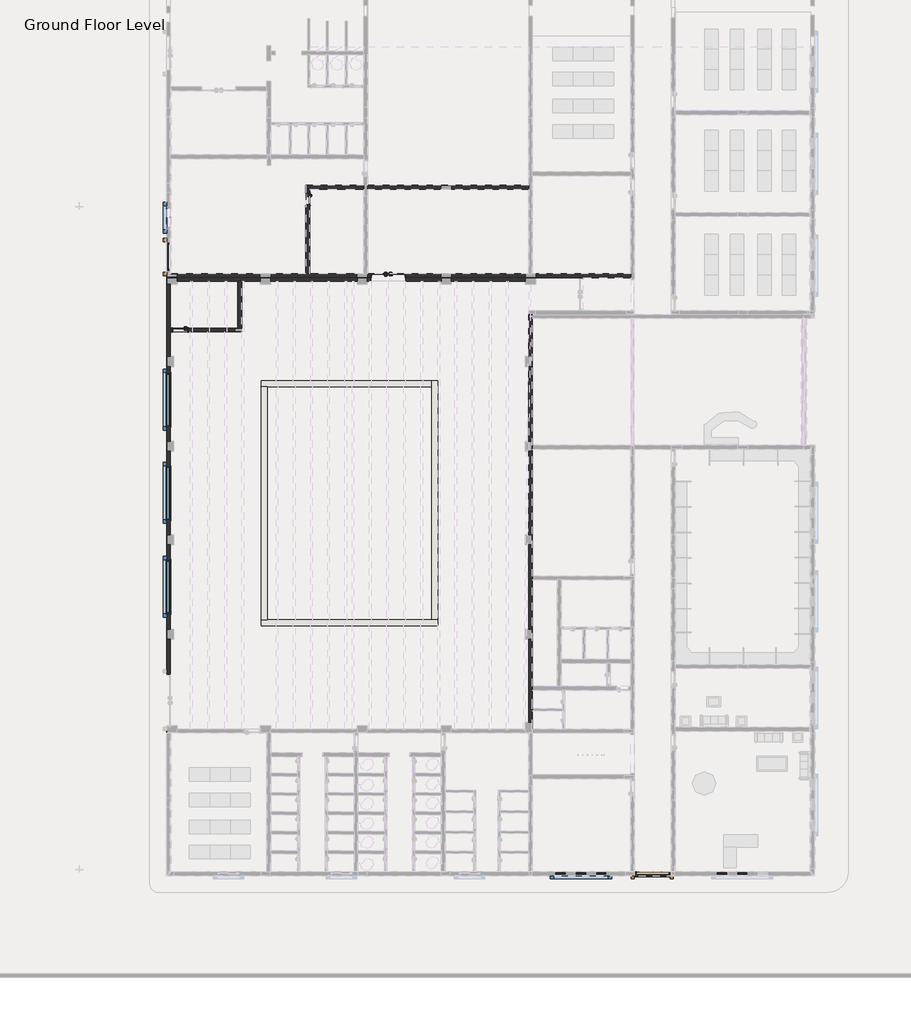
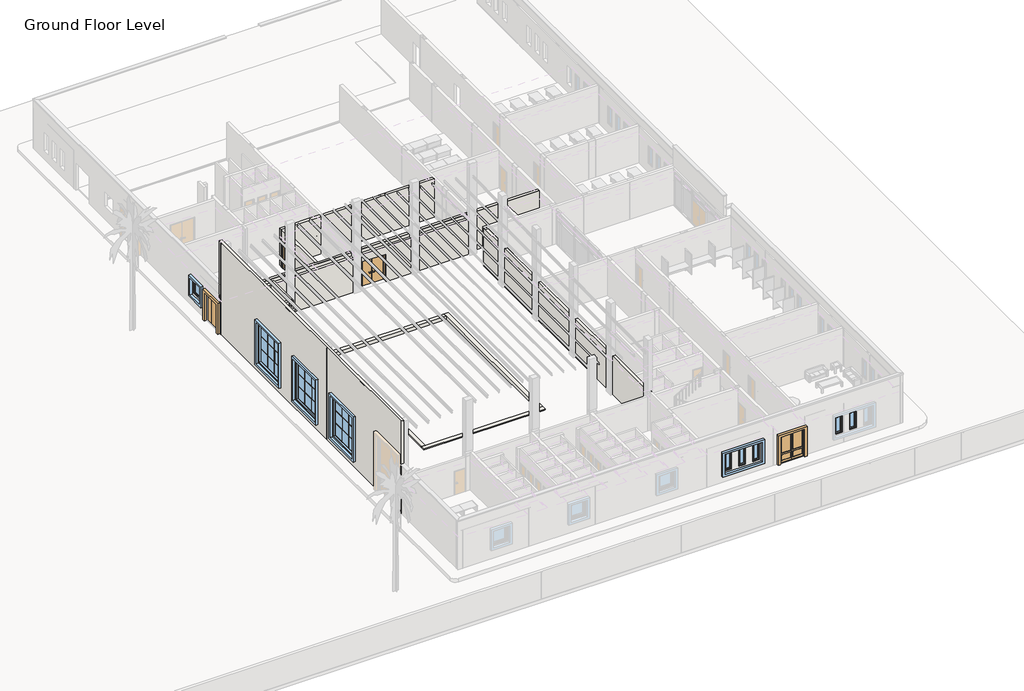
# One storey, part 3 of 23: 14 walls, 14 windows, 7 doors.
"""IFC4 building model written with IfcOpenShell, lengths in millimetres."""

from ifc_helpers import new_model, si_unit, frame, origin, place, context, project, spatial, polyline, outline, extrude, faceted_brep, transform, mapped, element, save
from components import door_1600_x_2500_8ab3e31f, door_batten_type_1_74683e9b, door_batten_type_1_96aa3be5, ext_double_out_timber_2lite_nz_2000x_2500_b5d1efe6, int_double_flush_nz_2000_x_2500_d3729d4c, int_single_flush_nz_700x_2100_3f4e598a, int_single_flush_nz_900_x_2100_2a598139, m_casement_3x3_with_trim_w4_ecc57509, window_batten_type_1_bbb21959, window_batten_type_1_b6324fda, window_batten_type_1_102509b6, window_single_shutter_w3_b236610e, window_single_shutter_w5_77842b58

model = new_model("IFC4")

# Units and contexts
model_context = context("Model", 3, world=origin())
ifc_project = project(units=[si_unit("LENGTHUNIT", "METRE", prefix="MILLI")], contexts=[model_context])

# Site, building, storey
site = spatial("IfcSite", under=ifc_project)
building = spatial("IfcBuilding", under=site)
storey = spatial("IfcBuildingStorey", under=building, Name="Ground Floor Level", Elevation=900.0)

# Doors
placement = place(None, origin())
door_1600_x_2500_shape = door_1600_x_2500_8ab3e31f(model_context)
element("IfcDoor", 1, ObjectType="Flush Asymmetrical : 1600 x 2500", at=placement, inside=storey, context=model_context, shape_type="MappedRepresentation", body=[
    mapped(door_1600_x_2500_shape, transform((-21947.2327605, -4944.7846466, 1000.0), x_axis=(0.0, 1.0, 0.0), y_axis=(-1.0, 0.0, 0.0), z_axis=(0.0, 0.0, 1.0))),
])
door_batten_type_1_shape = door_batten_type_1_74683e9b(model_context)
element("IfcDoor", 2, ObjectType="Door Batten : Type 1", at=placement, inside=storey, context=model_context, shape_type="MappedRepresentation", body=[
    mapped(door_batten_type_1_shape, transform((-21947.2327605, -4828.4134813, 987.2608957), x_axis=(0.0, -1.0, 0.0), y_axis=(1.0, 0.0, 0.0), z_axis=(0.0, 0.0, 1.0))),
])
door_batten_type_1_2_shape = door_batten_type_1_96aa3be5(model_context)
element("IfcDoor", 3, ObjectType="Door Batten : Type 1", at=placement, inside=storey, context=model_context, shape_type="MappedRepresentation", body=[
    mapped(door_batten_type_1_2_shape, transform((6395.8448912, -41254.7846466, 900.0), x_axis=(1.0, 0.0, 0.0), y_axis=(0.0, 1.0, 0.0), z_axis=(0.0, 0.0, 1.0))),
])
ext_double_out_timber_2lite_nz_2000x_2500_shape = ext_double_out_timber_2lite_nz_2000x_2500_b5d1efe6(model_context)
element("IfcDoor", 4, ObjectType="Ext Double Out-Timber-2Lite (NZ) : 2000x 2500", at=placement, inside=storey, context=model_context, shape_type="MappedRepresentation", body=[
    mapped(ext_double_out_timber_2lite_nz_2000x_2500_shape, transform((6410.7672394, -41257.5141639, 900.0), x_axis=(-1.0, 0.0, 0.0), y_axis=(0.0, -1.0, 0.0), z_axis=(0.0, 0.0, 1.0))),
])
int_double_flush_nz_2000_x_2500_shape = int_double_flush_nz_2000_x_2500_d3729d4c(model_context)
element("IfcDoor", 5, ObjectType="Int Double-Flush (NZ) : 2000 x 2500", at=placement, inside=storey, context=model_context, shape_type="MappedRepresentation", body=[
    mapped(int_double_flush_nz_2000_x_2500_shape, transform((-9018.2327605, -6054.7846466, 900.0), x_axis=(1.0, 0.0, 0.0), y_axis=(0.0, 1.0, 0.0), z_axis=(0.0, 0.0, 1.0))),
])
int_single_flush_nz_700x_2100_shape = int_single_flush_nz_700x_2100_3f4e598a(model_context)
element("IfcDoor", 6, ObjectType="Int Single-Flush (NZ) : 700x 2100", at=placement, inside=storey, context=model_context, shape_type="MappedRepresentation", body=[
    mapped(int_single_flush_nz_700x_2100_shape, transform((-13747.2327605, -1618.7846466, 1000.0), x_axis=(0.0, -1.0, 0.0), y_axis=(1.0, 0.0, 0.0), z_axis=(0.0, 0.0, 1.0))),
])
int_single_flush_nz_900_x_2100_shape = int_single_flush_nz_900_x_2100_2a598139(model_context)
element("IfcDoor", 7, ObjectType="Int Single-Flush (NZ) : 900 x 2100", at=placement, inside=storey, context=model_context, shape_type="MappedRepresentation", body=[
    mapped(int_single_flush_nz_900_x_2100_shape, transform((-21343.2327605, -9254.7846466, 1000.0), x_axis=(-1.0, 0.0, 0.0), y_axis=(0.0, -1.0, 0.0), z_axis=(0.0, 0.0, 1.0))),
])

# Walls
element("IfcWall", 8, ObjectType="Exterior - Blockwork 200 Swimming Pool", at=placement, inside=storey, context=model_context, shape_type="Brep", body=[
    faceted_brep([(-21837.2327605, -6164.7846466, 4100.0), (-947.2327605, -6164.7846466, 4100.0), (-947.2327605, -6164.7846466, 900.0), (-7999.2327605, -6164.7846466, 900.0), (-7999.2327605, -6164.7846466, 3419.0), (-10037.2327605, -6164.7846466, 3419.0), (-10037.2327605, -6164.7846466, 900.0), (-21837.2327605, -6164.7846466, 900.0), (-16547.2327605, -6384.7846466, 4100.0), (-21447.2327605, -6384.7846466, 4100.0), (-21447.2327605, -6384.7846466, 910.0), (-16547.2327605, -6384.7846466, 910.0), (-10847.2327605, -6384.7846466, 4100.0), (-15947.2327605, -6384.7846466, 4100.0), (-15947.2327605, -6384.7846466, 910.0), (-10847.2327605, -6384.7846466, 910.0), (-947.2327605, -6384.7846466, 4100.0), (-5297.2327605, -6384.7846466, 4100.0), (-5297.2327605, -6384.7846466, 910.0), (-947.2327605, -6384.7846466, 910.0), (-5897.2327605, -6384.7846466, 4100.0), (-10247.2327605, -6384.7846466, 4100.0), (-10247.2327605, -6384.7846466, 910.0), (-10037.2327605, -6384.7846466, 910.0), (-10037.2327605, -6384.7846466, 3419.0), (-7999.2327605, -6384.7846466, 3419.0), (-7999.2327605, -6384.7846466, 910.0), (-5897.2327605, -6384.7846466, 910.0), (-21837.2327605, -6174.7846466, 900.0), (-10037.2327605, -6374.7846466, 900.0), (-10247.2327605, -6374.7846466, 900.0), (-10247.2327605, -6174.7846466, 900.0), (-10847.2327605, -6174.7846466, 900.0), (-10847.2327605, -6374.7846466, 900.0), (-15947.2327605, -6374.7846466, 900.0), (-15947.2327605, -6174.7846466, 900.0), (-16547.2327605, -6174.7846466, 900.0), (-16547.2327605, -6374.7846466, 900.0), (-21447.2327605, -6374.7846466, 900.0), (-21447.2327605, -6174.7846466, 900.0), (-5297.2327605, -6174.7846466, 900.0), (-5897.2327605, -6174.7846466, 900.0), (-5897.2327605, -6374.7846466, 900.0), (-7999.2327605, -6374.7846466, 900.0), (-947.2327605, -6374.7846466, 900.0), (-5297.2327605, -6374.7846466, 900.0), (-21837.2327605, -6174.7846466, 4100.0), (-21447.2327605, -6174.7846466, 4100.0), (-16547.2327605, -6174.7846466, 4100.0), (-15947.2327605, -6174.7846466, 4100.0), (-10847.2327605, -6174.7846466, 4100.0), (-10247.2327605, -6174.7846466, 4100.0), (-5897.2327605, -6174.7846466, 4100.0), (-5297.2327605, -6174.7846466, 4100.0), (-947.2327605, -6374.7846466, 910.0), (-21447.2327605, -6374.7846466, 910.0), (-15947.2327605, -6374.7846466, 910.0), (-16547.2327605, -6374.7846466, 910.0), (-10247.2327605, -6374.7846466, 910.0), (-10847.2327605, -6374.7846466, 910.0), (-5297.2327605, -6374.7846466, 910.0), (-5897.2327605, -6374.7846466, 910.0), (-7999.2327605, -6374.7846466, 910.0), (-10037.2327605, -6374.7846466, 910.0)], [[[0, 1, 2, 3, 4, 5, 6, 7]], [[8, 9, 10, 11]], [[12, 13, 14, 15]], [[16, 17, 18, 19]], [[20, 21, 22, 23, 24, 25, 26, 27]], [[28, 7, 6, 29, 30, 31, 32, 33, 34, 35, 36, 37, 38, 39]], [[40, 41, 42, 43, 3, 2, 44, 45]], [[1, 0, 46, 47, 9, 8, 48, 49, 13, 12, 50, 51, 21, 20, 52, 53, 17, 16]], [[2, 1, 16, 19, 54, 44]], [[0, 7, 28, 46]], [[28, 39, 47, 46]], [[9, 47, 39, 38, 55, 10]], [[36, 35, 49, 48]], [[13, 49, 35, 34, 56, 14]], [[48, 8, 11, 57, 37, 36]], [[32, 31, 51, 50]], [[21, 51, 31, 30, 58, 22]], [[50, 12, 15, 59, 33, 32]], [[41, 40, 53, 52]], [[17, 53, 40, 45, 60, 18]], [[52, 20, 27, 61, 42, 41]], [[55, 57, 11, 10]], [[56, 59, 15, 14]], [[60, 54, 19, 18]], [[62, 61, 27, 26]], [[58, 63, 23, 22]], [[57, 55, 38, 37]], [[59, 56, 34, 33]], [[54, 60, 45, 44]], [[61, 62, 43, 42]], [[63, 58, 30, 29]], [[25, 4, 3, 43, 62, 26]], [[4, 25, 24, 5]], [[5, 24, 23, 63, 29, 6]]]),
])
element("IfcWall", 9, ObjectType="Exterior - Blockwork 200 Swimming Pool", at=placement, inside=storey, context=model_context, shape_type="Brep", body=[
    faceted_brep([(-757.2327605, -32354.7846466, 4400.0), (-757.2327605, -27454.7846466, 4400.0), (-757.2327605, -27454.7846466, 910.0), (-757.2327605, -32354.7846466, 910.0), (-757.2327605, -26854.7846466, 4400.0), (-757.2327605, -21904.7846466, 4400.0), (-757.2327605, -21904.7846466, 910.0), (-757.2327605, -26854.7846466, 910.0), (-757.2327605, -21304.7846466, 4400.0), (-757.2327605, -16404.7846466, 4400.0), (-757.2327605, -16404.7846466, 910.0), (-757.2327605, -21304.7846466, 910.0), (-757.2327605, -15804.7846466, 4400.0), (-757.2327605, -11404.7846466, 4400.0), (-757.2327605, -11404.7846466, 910.0), (-757.2327605, -15804.7846466, 910.0), (-757.2327605, -10804.7846466, 4400.0), (-757.2327605, -8344.7846466, 4400.0), (-757.2327605, -8344.7846466, 910.0), (-757.2327605, -10804.7846466, 910.0), (-537.2327605, -8344.7846466, 900.0), (-537.2327605, -8344.7846466, 4400.0), (-537.2327605, -8354.7846466, 4400.0), (-537.2327605, -8354.7846466, 900.0), (-537.2327605, -23754.7846466, 1000.0), (-537.2327605, -23744.7846466, 1000.0), (-537.2327605, -16264.7846466, 1000.0), (-537.2327605, -16254.7846466, 1000.0), (-537.2327605, -16254.7846466, 900.0), (-537.2327605, -16054.7846466, 900.0), (-537.2327605, -16054.7846466, 1000.0), (-537.2327605, -16044.7846466, 1000.0), (-537.2327605, -8564.7846466, 1000.0), (-537.2327605, -8554.7846466, 1000.0), (-537.2327605, -8554.7846466, 4400.0), (-537.2327605, -8564.7846466, 4400.0), (-537.2327605, -16044.7846466, 4400.0), (-537.2327605, -16264.7846466, 4400.0), (-537.2327605, -23744.7846466, 4400.0), (-537.2327605, -23964.7846466, 4400.0), (-537.2327605, -30234.7846466, 4400.0), (-537.2327605, -30454.7846466, 4400.0), (-537.2327605, -31544.7846466, 4400.0), (-537.2327605, -31664.7846466, 4400.0), (-537.2327605, -32754.7846466, 4400.0), (-537.2327605, -32854.7846466, 4400.0), (-537.2327605, -32854.7846466, 4100.0), (-537.2327605, -32744.7846466, 4100.0), (-537.2327605, -32744.7846466, 1000.0), (-537.2327605, -30454.7846466, 1000.0), (-537.2327605, -30444.7846466, 1000.0), (-537.2327605, -30444.7846466, 900.0), (-537.2327605, -30234.7846466, 900.0), (-537.2327605, -23964.7846466, 900.0), (-537.2327605, -23754.7846466, 900.0), (-547.2327605, -27454.7846466, 900.0), (-547.2327605, -26854.7846466, 900.0), (-747.2327605, -26854.7846466, 900.0), (-747.2327605, -21904.7846466, 900.0), (-547.2327605, -21904.7846466, 900.0), (-547.2327605, -23754.7846466, 900.0), (-547.2327605, -30444.7846466, 900.0), (-547.2327605, -32354.7846466, 900.0), (-747.2327605, -32354.7846466, 900.0), (-747.2327605, -27454.7846466, 900.0), (-747.2327605, -8354.7846466, 900.0), (-747.2327605, -8344.7846466, 900.0), (-547.2327605, -16404.7846466, 900.0), (-547.2327605, -21304.7846466, 900.0), (-747.2327605, -21304.7846466, 900.0), (-747.2327605, -16404.7846466, 900.0), (-547.2327605, -16254.7846466, 900.0), (-547.2327605, -16054.7846466, 900.0), (-747.2327605, -8554.7846466, 900.0), (-547.2327605, -8554.7846466, 900.0), (-547.2327605, -10804.7846466, 900.0), (-747.2327605, -10804.7846466, 900.0), (-547.2327605, -11404.7846466, 900.0), (-547.2327605, -15804.7846466, 900.0), (-747.2327605, -15804.7846466, 900.0), (-747.2327605, -11404.7846466, 900.0), (-547.2327605, -32354.7846466, 1000.0), (-547.2327605, -32744.7846466, 1000.0), (-547.2327605, -32744.7846466, 4100.0), (-547.2327605, -32854.7846466, 4100.0), (-547.2327605, -32854.7846466, 4400.0), (-547.2327605, -32754.7846466, 4400.0), (-547.2327605, -32354.7846466, 4400.0), (-747.2327605, -32354.7846466, 910.0), (-547.2327605, -27454.7846466, 4400.0), (-547.2327605, -26854.7846466, 4400.0), (-747.2327605, -27454.7846466, 910.0), (-747.2327605, -26854.7846466, 910.0), (-547.2327605, -21304.7846466, 1000.0), (-547.2327605, -21904.7846466, 1000.0), (-547.2327605, -21904.7846466, 4400.0), (-547.2327605, -21304.7846466, 4400.0), (-747.2327605, -21904.7846466, 910.0), (-747.2327605, -21304.7846466, 910.0), (-547.2327605, -16254.7846466, 1000.0), (-547.2327605, -16404.7846466, 1000.0), (-547.2327605, -16404.7846466, 4400.0), (-547.2327605, -15804.7846466, 4400.0), (-547.2327605, -15804.7846466, 1000.0), (-547.2327605, -16054.7846466, 1000.0), (-747.2327605, -16404.7846466, 910.0), (-747.2327605, -15804.7846466, 910.0), (-547.2327605, -10804.7846466, 1000.0), (-547.2327605, -11404.7846466, 1000.0), (-547.2327605, -11404.7846466, 4400.0), (-547.2327605, -10804.7846466, 4400.0), (-747.2327605, -11404.7846466, 910.0), (-747.2327605, -10804.7846466, 910.0), (-747.2327605, -8554.7846466, 910.0), (-747.2327605, -8554.7846466, 4400.0), (-547.2327605, -8554.7846466, 4400.0), (-547.2327605, -8554.7846466, 1000.0), (-747.2327605, -8354.7846466, 4400.0), (-747.2327605, -8354.7846466, 910.0), (-747.2327605, -8344.7846466, 910.0), (-547.2327605, -8344.7846466, 4400.0), (-547.2327605, -8354.7846466, 4400.0), (-547.2327605, -23754.7846466, 1000.0), (-547.2327605, -30444.7846466, 1000.0)], [[[0, 1, 2, 3]], [[4, 5, 6, 7]], [[8, 9, 10, 11]], [[12, 13, 14, 15]], [[16, 17, 18, 19]], [[20, 21, 22, 23]], [[24, 25, 26, 27, 28, 29, 30, 31, 32, 33, 34, 35, 36, 37, 38, 39, 40, 41, 42, 43, 44, 45, 46, 47, 48, 49, 50, 51, 52, 53, 54]], [[55, 56, 57, 58, 59, 60, 54, 53, 52, 51, 61, 62, 63, 64]], [[20, 23, 65, 66]], [[67, 68, 69, 70]], [[28, 71, 72, 29]], [[73, 74, 75, 76]], [[77, 78, 79, 80]], [[81, 82, 83, 84, 85, 86, 87]], [[62, 81, 87, 0, 3, 88, 63]], [[56, 55, 89, 90]], [[89, 55, 64, 91, 2, 1]], [[56, 90, 4, 7, 92, 57]], [[93, 94, 95, 96]], [[94, 59, 58, 97, 6, 5, 95]], [[68, 93, 96, 8, 11, 98, 69]], [[99, 100, 101, 102, 103, 104, 72, 71]], [[100, 67, 70, 105, 10, 9, 101]], [[78, 103, 102, 12, 15, 106, 79]], [[107, 108, 109, 110]], [[108, 77, 80, 111, 14, 13, 109]], [[75, 107, 110, 16, 19, 112, 76]], [[74, 73, 113, 114, 115, 34, 33, 116]], [[117, 114, 113, 118]], [[21, 20, 66, 119, 18, 17, 120]], [[23, 22, 121, 117, 118, 65]], [[122, 94, 93, 100, 99, 27, 26, 25, 24]], [[60, 122, 24, 54]], [[122, 60, 59, 94]], [[100, 93, 68, 67]], [[27, 99, 71, 28]], [[103, 108, 107, 116, 33, 32, 31, 30, 104]], [[104, 30, 29, 72]], [[108, 103, 78, 77]], [[116, 107, 75, 74]], [[81, 123, 50, 49, 48, 82]], [[61, 123, 81, 62]], [[123, 61, 51, 50]], [[91, 88, 3, 2]], [[97, 92, 7, 6]], [[105, 98, 11, 10]], [[111, 106, 15, 14]], [[113, 112, 19, 18, 119, 118]], [[88, 91, 64, 63]], [[92, 97, 58, 57]], [[98, 105, 70, 69]], [[106, 111, 80, 79]], [[112, 113, 73, 76]], [[118, 119, 66, 65]], [[46, 45, 85, 84]], [[47, 46, 84, 83]], [[47, 83, 82, 48]], [[120, 17, 16, 110, 115, 114, 117, 121]], [[0, 87, 89, 1]], [[4, 90, 95, 5]], [[8, 96, 101, 9]], [[12, 102, 109, 13]], [[45, 44, 43, 42, 41, 40, 39, 38, 37, 36, 35, 34, 115, 110, 109, 102, 101, 96, 95, 90, 89, 87, 86, 85]], [[21, 120, 121, 22]]]),
])
element("IfcWall", 10, ObjectType="Exterior - Blockwork 200mm", at=placement, inside=storey, context=model_context, shape_type="Brep", body=[
    faceted_brep([(-21837.2327605, -5944.7846466, 9300.0), (-21837.2327605, -6164.7846466, 9300.0), (-21837.2327605, -32744.7846466, 9300.0), (-21837.2327605, -32964.7846466, 9300.0), (-21837.2327605, -32964.7846466, 5302.8002678), (-21837.2327605, -32964.7846466, 4550.0), (-21837.2327605, -32964.7846466, 4400.0), (-21837.2327605, -32954.7846466, 4400.0), (-21837.2327605, -32954.7846466, 9200.0), (-21837.2327605, -32744.7846466, 9200.0), (-21837.2327605, -32554.7846466, 9200.0), (-21837.2327605, -32554.7846466, 5919.0), (-21837.2327605, -29535.7846466, 5919.0), (-21837.2327605, -29535.7846466, 910.0), (-21837.2327605, -27454.7846468, 910.0), (-21837.2327605, -27454.7846468, 9200.0), (-21837.2327605, -26854.7846468, 9200.0), (-21837.2327605, -26854.7846468, 910.0), (-21837.2327605, -21904.7846466, 910.0), (-21837.2327605, -21904.7846466, 9200.0), (-21837.2327605, -21304.7846466, 9200.0), (-21837.2327605, -21304.7846466, 910.0), (-21837.2327605, -16404.7846466, 910.0), (-21837.2327605, -16404.7846466, 9200.0), (-21837.2327605, -15804.7846466, 9200.0), (-21837.2327605, -15804.7846466, 910.0), (-21837.2327605, -11404.7846466, 910.0), (-21837.2327605, -11404.7846466, 9200.0), (-21837.2327605, -10804.7846466, 9200.0), (-21837.2327605, -10804.7846466, 910.0), (-21837.2327605, -6574.7846466, 910.0), (-21837.2327605, -6574.7846466, 4270.0), (-21837.2327605, -9354.7846466, 4270.0), (-21837.2327605, -9354.7846466, 4400.0), (-21837.2327605, -6574.7846466, 4400.0), (-21837.2327605, -6574.7846466, 9200.0), (-21837.2327605, -6174.7846466, 9200.0), (-21837.2327605, -6174.7846466, 4400.0), (-21837.2327605, -6174.7846466, 4270.0), (-21837.2327605, -6174.7846466, 4100.0), (-21837.2327605, -6174.7846466, 900.0), (-21837.2327605, -6164.7846466, 900.0), (-21837.2327605, -6154.7846466, 900.0), (-21837.2327605, -6154.7846466, 4100.0), (-21837.2327605, -6154.7846466, 4400.0), (-21837.2327605, -5954.7846466, 4400.0), (-21837.2327605, -5954.7846466, 4100.0), (-21837.2327605, -5944.7846466, 4100.0), (-21837.2327605, -5944.7846466, 4400.0), (-21837.2327605, -5944.7846466, 4550.0), (-21837.2327605, -5944.7846466, 5302.8002678), (-21837.2327605, -25932.2846466, 1800.0), (-21837.2327605, -25932.2846466, 5300.0), (-21837.2327605, -22832.2846466, 5300.0), (-21837.2327605, -22832.2846466, 1800.0), (-21837.2327605, -20412.2846466, 1815.0), (-21837.2327605, -20412.2846466, 5315.0), (-21837.2327605, -17312.2846466, 5315.0), (-21837.2327605, -17312.2846466, 1815.0), (-21837.2327605, -14912.2846466, 1815.0), (-21837.2327605, -14912.2846466, 5315.0), (-21837.2327605, -11812.2846466, 5315.0), (-21837.2327605, -11812.2846466, 1815.0), (-21837.2327605, -32954.7846466, 900.0), (-21837.2327605, -32954.7846466, 1000.0), (-21837.2327605, -32954.7846466, 4100.0), (-21837.2327605, -32964.7846466, 4100.0), (-21837.2327605, -32964.7846466, 1000.0), (-21837.2327605, -32964.7846466, 900.0), (-22057.2327605, -32964.7846466, 9300.0), (-22057.2327605, -5944.7846466, 9300.0), (-22057.2327605, -5944.7846466, 5302.8002678), (-22057.2327605, -5944.7846466, 4100.0), (-22057.2327605, -6054.7846466, 4100.0), (-22057.2327605, -6054.7846466, 900.0), (-22057.2327605, -29535.7846466, 900.0), (-22057.2327605, -29535.7846466, 5919.0), (-22057.2327605, -32573.7846466, 5919.0), (-22057.2327605, -32573.7846466, 900.0), (-22057.2327605, -32964.7846466, 900.0), (-22057.2327605, -32964.7846466, 4100.0), (-22057.2327605, -32854.7846466, 4100.0), (-22057.2327605, -32854.7846466, 4400.0), (-22057.2327605, -32964.7846466, 4400.0), (-22057.2327605, -32964.7846466, 5302.8002678), (-22057.2327605, -25932.2846466, 5300.0), (-22057.2327605, -25932.2846466, 1800.0), (-22057.2327605, -22832.2846466, 1800.0), (-22057.2327605, -22832.2846466, 5300.0), (-22057.2327605, -20412.2846466, 5315.0), (-22057.2327605, -20412.2846466, 1815.0), (-22057.2327605, -17312.2846466, 1815.0), (-22057.2327605, -17312.2846466, 5315.0), (-22057.2327605, -14912.2846466, 5315.0), (-22057.2327605, -14912.2846466, 1815.0), (-22057.2327605, -11812.2846466, 1815.0), (-22057.2327605, -11812.2846466, 5315.0), (-22047.2327605, -10804.7846466, 900.0), (-22047.2327605, -11404.7846466, 900.0), (-21847.2327605, -11404.7846466, 900.0), (-21847.2327605, -15804.7846466, 900.0), (-22047.2327605, -15804.7846466, 900.0), (-22047.2327605, -16404.7846466, 900.0), (-21847.2327605, -16404.7846466, 900.0), (-21847.2327605, -21304.7846466, 900.0), (-22047.2327605, -21304.7846466, 900.0), (-22047.2327605, -21904.7846466, 900.0), (-21847.2327605, -21904.7846466, 900.0), (-21847.2327605, -26854.7846468, 900.0), (-22047.2327605, -26854.7846468, 900.0), (-22047.2327605, -27454.7846468, 900.0), (-21847.2327605, -27454.7846468, 900.0), (-21847.2327605, -29535.7846466, 900.0), (-22047.2327605, -6054.7846466, 900.0), (-22047.2327605, -6154.7846466, 900.0), (-22047.2327605, -6174.7846466, 900.0), (-22047.2327605, -6574.7846466, 900.0), (-21847.2327605, -6574.7846466, 900.0), (-21847.2327605, -10804.7846466, 900.0), (-22047.2327605, -32573.7846466, 900.0), (-22047.2327605, -32954.7846466, 900.0), (-21847.2327605, -32964.7846466, 900.0), (-22047.2327605, -11404.7846466, 9200.0), (-21847.2327605, -11404.7846466, 910.0), (-22047.2327605, -10804.7846466, 9200.0), (-21847.2327605, -10804.7846466, 910.0), (-22047.2327605, -15804.7846466, 9200.0), (-22047.2327605, -16404.7846466, 9200.0), (-21847.2327605, -15804.7846466, 910.0), (-21847.2327605, -16404.7846466, 910.0), (-22047.2327605, -21304.7846466, 9200.0), (-22047.2327605, -21904.7846466, 9200.0), (-21847.2327605, -21304.7846466, 910.0), (-21847.2327605, -21904.7846466, 910.0), (-22047.2327605, -26854.7846468, 9200.0), (-22047.2327605, -27454.7846468, 9200.0), (-21847.2327605, -26854.7846468, 910.0), (-21847.2327605, -27454.7846468, 910.0), (-22047.2327605, -32554.7846466, 9200.0), (-22047.2327605, -32554.7846466, 5919.0), (-22047.2327605, -32954.7846466, 9200.0), (-22047.2327605, -32954.7846466, 4550.0), (-22047.2327605, -32954.7846466, 4400.0), (-22047.2327605, -32854.7846466, 4400.0), (-22047.2327605, -32854.7846466, 4100.0), (-22047.2327605, -32954.7846466, 4100.0), (-22047.2327605, -32573.7846466, 5919.0), (-22047.2327605, -6574.7846466, 9200.0), (-21847.2327605, -6574.7846466, 4400.0), (-21847.2327605, -6574.7846466, 4270.0), (-21847.2327605, -6574.7846466, 910.0), (-22047.2327605, -6174.7846466, 9200.0), (-22047.2327605, -32964.7846466, 4400.0), (-22047.2327605, -6154.7846466, 4400.0), (-22047.2327605, -5954.7846466, 4400.0), (-22047.2327605, -6054.7846466, 4100.0), (-22047.2327605, -5954.7846466, 4100.0), (-21847.2327605, -29535.7846466, 910.0), (-21847.2327605, -9354.7846466, 4270.0), (-21847.2327605, -9354.7846466, 4400.0)], [[[0, 1, 2, 3, 4, 5, 6, 7, 8, 9, 10, 11, 12, 13, 14, 15, 16, 17, 18, 19, 20, 21, 22, 23, 24, 25, 26, 27, 28, 29, 30, 31, 32, 33, 34, 35, 36, 37, 38, 39, 40, 41, 42, 43, 44, 45, 46, 47, 48, 49, 50], [51, 52, 53, 54], [55, 56, 57, 58], [59, 60, 61, 62]], [[63, 64, 65, 66, 67, 68]], [[69, 70, 71, 72, 73, 74, 75, 76, 77, 78, 79, 80, 81, 82, 83, 84], [85, 86, 87, 88], [89, 90, 91, 92], [93, 94, 95, 96]], [[97, 98, 99, 100, 101, 102, 103, 104, 105, 106, 107, 108, 109, 110, 111, 112, 75, 74, 113, 114, 42, 41, 40, 115, 116, 117, 118]], [[119, 120, 63, 68, 121, 79, 78]], [[3, 2, 1, 0, 70, 69]], [[51, 86, 85, 52]], [[86, 51, 54, 87]], [[87, 54, 53, 88]], [[55, 90, 89, 56]], [[90, 55, 58, 91]], [[91, 58, 57, 92]], [[59, 94, 93, 60]], [[94, 59, 62, 95]], [[95, 62, 61, 96]], [[122, 27, 26, 123, 99, 98]], [[124, 122, 98, 97]], [[28, 124, 97, 118, 125, 29]], [[122, 124, 28, 27]], [[126, 127, 102, 101]], [[24, 126, 101, 100, 128, 25]], [[127, 23, 22, 129, 103, 102]], [[127, 126, 24, 23]], [[130, 131, 106, 105]], [[20, 130, 105, 104, 132, 21]], [[131, 19, 18, 133, 107, 106]], [[131, 130, 20, 19]], [[134, 135, 110, 109]], [[16, 134, 109, 108, 136, 17]], [[135, 15, 14, 137, 111, 110]], [[135, 134, 16, 15]], [[10, 138, 139, 11]], [[138, 140, 141, 142, 143, 144, 145, 120, 119, 146, 139]], [[140, 138, 10, 9, 8]], [[147, 35, 34, 148, 149, 31, 30, 150, 117, 116]], [[151, 147, 116, 115]], [[147, 151, 36, 35]], [[52, 85, 88, 53]], [[56, 89, 92, 57]], [[60, 93, 96, 61]], [[36, 151, 115, 40, 39, 38, 37]], [[65, 64, 63, 120, 145]], [[140, 8, 7, 142, 141]], [[81, 80, 66, 65, 145, 144]], [[82, 81, 144, 143]], [[83, 82, 143, 142, 7, 6, 152]], [[79, 121, 68, 67, 66, 80]], [[114, 153, 44, 43, 42]], [[154, 153, 114, 113, 155, 156]], [[153, 154, 45, 44]], [[74, 73, 155, 113]], [[73, 72, 47, 46, 156, 155]], [[45, 154, 156, 46]], [[3, 69, 84, 83, 152, 6, 5, 4]], [[70, 0, 50, 71]], [[128, 123, 26, 25]], [[132, 129, 22, 21]], [[136, 133, 18, 17]], [[157, 137, 14, 13]], [[125, 150, 30, 29]], [[123, 128, 100, 99]], [[129, 132, 104, 103]], [[133, 136, 108, 107]], [[137, 157, 112, 111]], [[150, 125, 118, 117]], [[78, 77, 146, 119]], [[76, 12, 11, 139, 146, 77]], [[12, 76, 75, 112, 157, 13]], [[149, 158, 32, 31]], [[33, 159, 148, 34]], [[158, 159, 33, 32]], [[159, 158, 149, 148]], [[47, 72, 71, 50, 49, 48]]]),
])
element("IfcWall", 11, ObjectType="Generic - 200mm Interior", at=placement, inside=storey, context=model_context, shape_type="Brep", body=[
    faceted_brep([(-13867.2327605, -734.7846466, 4400.0), (-10457.2327605, -734.7846466, 4400.0), (-10457.2327605, -734.7846466, 1000.0), (-13867.2327605, -734.7846466, 1000.0), (-10457.2327605, -974.7846466, 4400.0), (-13627.2327605, -974.7846466, 4400.0), (-13867.2327605, -974.7846466, 4400.0), (-13867.2327605, -974.7846466, 1000.0), (-13847.2327605, -974.7846466, 1000.0), (-13847.2327605, -974.7846466, 900.0), (-13647.2327605, -974.7846466, 900.0), (-13647.2327605, -974.7846466, 1000.0), (-13627.2327605, -974.7846466, 1000.0), (-10457.2327605, -974.7846466, 1000.0), (-13847.2327605, -754.7846466, 900.0), (-10457.2327605, -754.7846466, 900.0), (-10457.2327605, -954.7846466, 900.0), (-13647.2327605, -954.7846466, 900.0), (-10457.2327605, -954.7846466, 1000.0), (-10457.2327605, -754.7846466, 1000.0), (-13847.2327605, -754.7846466, 1000.0), (-13647.2327605, -954.7846466, 1000.0)], [[[0, 1, 2, 3]], [[4, 5, 6, 7, 8, 9, 10, 11, 12, 13]], [[14, 15, 16, 17, 10, 9]], [[1, 4, 13, 18, 16, 15, 19, 2]], [[6, 0, 3, 7]], [[1, 0, 6, 5, 4]], [[19, 20, 8, 7, 3, 2]], [[14, 20, 19, 15]], [[20, 14, 9, 8]], [[21, 18, 13, 12, 11]], [[21, 17, 16, 18]], [[17, 21, 11, 10]]]),
])
element("IfcWall", 12, ObjectType="Generic - 200mm Interior", at=placement, inside=storey, context=model_context, shape_type="Brep", body=[
    faceted_brep([(-13867.2327605, -5944.7846466, 4400.0), (-13867.2327605, -974.7846466, 4400.0), (-13867.2327605, -974.7846466, 1000.0), (-13867.2327605, -1174.7846466, 1000.0), (-13867.2327605, -1174.7846466, 3119.0), (-13867.2327605, -1912.7846466, 3119.0), (-13867.2327605, -1912.7846466, 1000.0), (-13867.2327605, -5944.7846466, 1000.0), (-13627.2327605, -974.7846466, 4400.0), (-13627.2327605, -5944.7846466, 4400.0), (-13627.2327605, -5944.7846466, 1000.0), (-13627.2327605, -1912.7846466, 1000.0), (-13627.2327605, -1912.7846466, 3119.0), (-13627.2327605, -1174.7846466, 3119.0), (-13627.2327605, -1174.7846466, 1000.0), (-13627.2327605, -974.7846466, 1000.0), (-13847.2327605, -5944.7846466, 900.0), (-13847.2327605, -974.7846466, 900.0), (-13647.2327605, -974.7846466, 900.0), (-13647.2327605, -5944.7846466, 900.0), (-13647.2327605, -974.7846466, 1000.0), (-13847.2327605, -974.7846466, 1000.0), (-13847.2327605, -1912.7846466, 1000.0), (-13847.2327605, -5944.7846466, 1000.0), (-13847.2327605, -1174.7846466, 1000.0), (-13647.2327605, -5944.7846466, 1000.0), (-13647.2327605, -1912.7846466, 1000.0), (-13647.2327605, -1174.7846466, 1000.0)], [[[0, 1, 2, 3, 4, 5, 6, 7]], [[8, 9, 10, 11, 12, 13, 14, 15]], [[16, 17, 18, 19]], [[1, 8, 15, 20, 18, 17, 21, 2]], [[1, 0, 9, 8]], [[22, 23, 7, 6]], [[2, 21, 24, 3]], [[23, 22, 24, 21, 17, 16]], [[25, 26, 11, 10]], [[27, 20, 15, 14]], [[20, 27, 26, 25, 19, 18]], [[5, 12, 11, 26, 22, 6]], [[12, 5, 4, 13]], [[13, 4, 3, 24, 27, 14]], [[24, 22, 26, 27]], [[9, 0, 7, 23, 16, 19, 25, 10]]]),
])
element("IfcWall", 13, ObjectType="Interior - Blockwork 200", at=placement, inside=storey, context=model_context, shape_type="Brep", body=[
    faceted_brep([(-10237.2327605, -744.7846466, 4400.0), (-757.2327605, -744.7846466, 4400.0), (-757.2327605, -744.7846466, 1000.0), (-10237.2327605, -744.7846466, 1000.0), (-757.2327605, -964.7846466, 4400.0), (-10237.2327605, -964.7846466, 4400.0), (-10237.2327605, -964.7846466, 910.0), (-757.2327605, -964.7846466, 910.0), (-5897.2327605, -754.7846466, 900.0), (-5897.2327605, -954.7846466, 900.0), (-10237.2327605, -954.7846466, 900.0), (-10237.2327605, -754.7846466, 900.0), (-5297.2327605, -954.7846466, 900.0), (-5297.2327605, -754.7846466, 900.0), (-757.2327605, -754.7846466, 900.0), (-757.2327605, -954.7846466, 900.0), (-10237.2327605, -754.7846466, 1000.0), (-10237.2327605, -954.7846466, 910.0), (-757.2327605, -954.7846466, 910.0), (-757.2327605, -754.7846466, 1000.0), (-5897.2327605, -954.7846466, 4400.0), (-5297.2327605, -954.7846466, 4400.0), (-5297.2327605, -954.7846466, 910.0), (-5897.2327605, -954.7846466, 910.0), (-5897.2327605, -754.7846466, 1000.0), (-5897.2327605, -754.7846466, 4400.0), (-5297.2327605, -754.7846466, 4400.0), (-5297.2327605, -754.7846466, 1000.0)], [[[0, 1, 2, 3]], [[4, 5, 6, 7]], [[8, 9, 10, 11]], [[12, 13, 14, 15]], [[5, 0, 3, 16, 11, 10, 17, 6]], [[1, 4, 7, 18, 15, 14, 19, 2]], [[20, 21, 22, 23]], [[9, 8, 24, 25, 20, 23]], [[26, 25, 24, 27]], [[13, 12, 22, 21, 26, 27]], [[1, 0, 5, 4], [21, 20, 25, 26]], [[24, 16, 3, 2, 19, 27]], [[16, 24, 8, 11]], [[27, 19, 14, 13]], [[17, 23, 22, 18, 7, 6]], [[23, 17, 10, 9]], [[18, 22, 12, 15]]]),
])
element("IfcWall", 14, ObjectType="Interior - Blockwork 200", at=placement, inside=storey, context=model_context, shape_type="Brep", body=[
    faceted_brep([(5242.7672395, -6164.7846466, 4400.0), (-21837.2327605, -6164.7846466, 4400.0), (-21837.2327605, -6164.7846466, 4100.0), (-21837.2327605, -6164.7846466, 900.0), (-10037.2327605, -6164.7846466, 900.0), (-10037.2327605, -6164.7846466, 3419.0), (-7999.2327605, -6164.7846466, 3419.0), (-7999.2327605, -6164.7846466, 900.0), (-947.2327605, -6164.7846466, 900.0), (-347.2327605, -6164.7846466, 900.0), (-347.2327605, -6164.7846466, 910.0), (5242.7672395, -6164.7846466, 910.0), (-21837.2327605, -5944.7846466, 4400.0), (-13867.2327605, -5944.7846466, 4400.0), (-13627.2327605, -5944.7846466, 4400.0), (-10457.2327605, -5944.7846466, 4400.0), (-10237.2327605, -5944.7846466, 4400.0), (-757.2327605, -5944.7846466, 4400.0), (-537.2327605, -5944.7846466, 4400.0), (5242.7672395, -5944.7846466, 4400.0), (5242.7672395, -5944.7846466, 1000.0), (-537.2327605, -5944.7846466, 1000.0), (-547.2327605, -5944.7846466, 1000.0), (-547.2327605, -5944.7846466, 900.0), (-747.2327605, -5944.7846466, 900.0), (-747.2327605, -5944.7846466, 910.0), (-757.2327605, -5944.7846466, 910.0), (-7999.2327605, -5944.7846466, 910.0), (-7999.2327605, -5944.7846466, 3419.0), (-10037.2327605, -5944.7846466, 3419.0), (-10037.2327605, -5944.7846466, 910.0), (-10237.2327605, -5944.7846466, 910.0), (-10247.2327605, -5944.7846466, 910.0), (-10247.2327605, -5944.7846466, 900.0), (-10447.2327605, -5944.7846466, 900.0), (-10447.2327605, -5944.7846466, 1000.0), (-10457.2327605, -5944.7846466, 1000.0), (-13627.2327605, -5944.7846466, 1000.0), (-13647.2327605, -5944.7846466, 1000.0), (-13647.2327605, -5944.7846466, 900.0), (-13847.2327605, -5944.7846466, 900.0), (-13847.2327605, -5944.7846466, 1000.0), (-13867.2327605, -5944.7846466, 1000.0), (-21837.2327605, -5944.7846466, 1000.0), (-21837.2327605, -5944.7846466, 4100.0), (-927.2327605, -5954.7846466, 900.0), (-927.2327605, -6154.7846466, 900.0), (-347.2327605, -6154.7846466, 900.0), (-7999.2327605, -5954.7846466, 900.0), (-5897.2327605, -5954.7846466, 900.0), (-5897.2327605, -6154.7846466, 900.0), (-5297.2327605, -6154.7846466, 900.0), (-5297.2327605, -5954.7846466, 900.0), (-327.2327605, -6154.7846466, 900.0), (-327.2327605, -5954.7846466, 900.0), (5242.7672395, -5954.7846466, 900.0), (5242.7672395, -6154.7846466, 900.0), (-10847.2327605, -5954.7846466, 900.0), (-10847.2327605, -6154.7846466, 900.0), (-10247.2327605, -6154.7846466, 900.0), (-10247.2327605, -5954.7846466, 900.0), (-10037.2327605, -5954.7846466, 900.0), (-21837.2327605, -6154.7846466, 900.0), (-21447.2327605, -6154.7846466, 900.0), (-21447.2327605, -5954.7846466, 900.0), (-16547.2327605, -5954.7846466, 900.0), (-16547.2327605, -6154.7846466, 900.0), (-15947.2327605, -6154.7846466, 900.0), (-15947.2327605, -5954.7846466, 900.0), (-13847.2327605, -5954.7846466, 900.0), (-13647.2327605, -5954.7846466, 900.0), (-547.2327605, -5954.7846466, 900.0), (-747.2327605, -5954.7846466, 900.0), (-10447.2327605, -5954.7846466, 900.0), (5242.7672395, -6154.7846466, 4400.0), (5242.7672395, -6154.7846466, 910.0), (5242.7672395, -5954.7846466, 1000.0), (-927.2327605, -5954.7846466, 910.0), (-927.2327605, -5954.7846466, 4400.0), (-927.2327605, -6154.7846466, 4400.0), (-327.2327605, -5954.7846466, 4400.0), (-747.2327605, -5954.7846466, 910.0), (-547.2327605, -5954.7846466, 1000.0), (-327.2327605, -5954.7846466, 1000.0), (-327.2327605, -6154.7846466, 910.0), (-327.2327605, -6154.7846466, 4400.0), (-5897.2327605, -5954.7846466, 910.0), (-5897.2327605, -5954.7846466, 4400.0), (-5897.2327605, -6154.7846466, 4400.0), (-5297.2327605, -5954.7846466, 4400.0), (-5297.2327605, -5954.7846466, 910.0), (-5297.2327605, -6154.7846466, 4400.0), (-10847.2327605, -5954.7846466, 1000.0), (-10847.2327605, -5954.7846466, 4400.0), (-10847.2327605, -6154.7846466, 4400.0), (-10247.2327605, -5954.7846466, 4400.0), (-10447.2327605, -5954.7846466, 1000.0), (-10247.2327605, -5954.7846466, 910.0), (-10247.2327605, -6154.7846466, 4400.0), (-16547.2327605, -5954.7846466, 1000.0), (-16547.2327605, -5954.7846466, 4400.0), (-16547.2327605, -6154.7846466, 4400.0), (-15947.2327605, -5954.7846466, 4400.0), (-15947.2327605, -5954.7846466, 1000.0), (-15947.2327605, -6154.7846466, 4400.0), (-21447.2327605, -5954.7846466, 4400.0), (-21837.2327605, -5954.7846466, 4400.0), (-21837.2327605, -5954.7846466, 4100.0), (-21837.2327605, -5954.7846466, 1000.0), (-21447.2327605, -5954.7846466, 1000.0), (-21447.2327605, -6154.7846466, 4400.0), (-547.2327605, -6154.7846466, 4400.0), (-21837.2327605, -6154.7846466, 4400.0), (-347.2327605, -6154.7846466, 910.0), (-13847.2327605, -5954.7846466, 1000.0), (-13647.2327605, -5954.7846466, 1000.0), (-7999.2327605, -5954.7846466, 910.0), (-10247.2327605, -5954.7846466, 910.0), (-10037.2327605, -5954.7846466, 910.0)], [[[0, 1, 2, 3, 4, 5, 6, 7, 8, 9, 10, 11]], [[12, 13, 14, 15, 16, 17, 18, 19, 20, 21, 22, 23, 24, 25, 26, 27, 28, 29, 30, 31, 32, 33, 34, 35, 36, 37, 38, 39, 40, 41, 42, 43, 44]], [[45, 46, 47, 9, 8, 7, 48, 49, 50, 51, 52]], [[53, 54, 55, 56]], [[57, 58, 59, 60, 61, 4, 3, 62, 63, 64, 65, 66, 67, 68, 69, 40, 39, 70]], [[23, 71, 72, 24]], [[60, 73, 34, 33]], [[74, 0, 11, 75, 56, 55, 76, 20, 19]], [[46, 45, 77, 78, 79]], [[80, 78, 77, 81, 72, 71, 82, 83]], [[54, 53, 84, 85, 80, 83]], [[50, 49, 86, 87, 88]], [[89, 87, 86, 90]], [[52, 51, 91, 89, 90]], [[58, 57, 92, 93, 94]], [[95, 93, 92, 96, 73, 60, 97]], [[60, 59, 98, 95, 97]], [[66, 65, 99, 100, 101]], [[102, 100, 99, 103]], [[68, 67, 104, 102, 103]], [[105, 106, 107, 108, 109]], [[64, 63, 110, 105, 109]], [[1, 0, 74, 85, 111, 79, 91, 88, 98, 94, 104, 101, 110, 112]], [[74, 19, 18, 17, 16, 15, 14, 13, 12, 106, 105, 110, 101, 100, 102, 104, 94, 93, 95, 98, 88, 87, 89, 91, 79, 78, 80, 85]], [[46, 79, 111, 85, 84, 113, 47]], [[50, 88, 91, 51]], [[58, 94, 98, 59]], [[66, 101, 104, 67]], [[110, 63, 62, 112]], [[76, 83, 82, 22, 21, 20]], [[83, 76, 55, 54]], [[22, 82, 71, 23]], [[114, 103, 99, 109, 108, 43, 42, 41]], [[69, 114, 41, 40]], [[114, 69, 68, 103]], [[109, 99, 65, 64]], [[92, 115, 38, 37, 36, 35, 96]], [[96, 35, 34, 73]], [[70, 115, 92, 57]], [[115, 70, 39, 38]], [[77, 90, 86, 116, 27, 26, 25, 81]], [[117, 32, 31, 30, 118]], [[81, 25, 24, 72]], [[90, 77, 45, 52]], [[60, 117, 118, 61]], [[49, 48, 116, 86]], [[117, 60, 33, 32]], [[10, 113, 84, 75, 11]], [[113, 10, 9, 47]], [[75, 84, 53, 56]], [[6, 28, 27, 116, 48, 7]], [[28, 6, 5, 29]], [[29, 5, 4, 61, 118, 30]], [[1, 112, 62, 3, 2]], [[106, 12, 44, 43, 108, 107]]]),
])
element("IfcWall", 15, ObjectType="Interior - Blockwork 200", at=placement, inside=storey, context=model_context, shape_type="Brep", body=[
    faceted_brep([(-17867.2327605, -6384.7846466, 4400.0), (-17867.2327605, -6384.7846466, 900.0), (-17867.2327605, -9144.7846466, 900.0), (-17867.2327605, -9154.7846466, 900.0), (-17867.2327605, -9154.7846466, 4400.0), (-17867.2327605, -9144.7846466, 4400.0), (-17647.2327605, -6384.7846466, 900.0), (-17647.2327605, -6384.7846466, 4400.0), (-17647.2327605, -9154.7846466, 4400.0), (-17647.2327605, -9154.7846466, 900.0), (-17657.2327605, -9154.7846466, 4400.0)], [[[0, 1, 2, 3, 4, 5]], [[6, 7, 8, 9]], [[1, 6, 9, 3, 2]], [[7, 0, 5, 4, 10, 8]], [[1, 0, 7, 6]], [[4, 3, 9, 8, 10]]]),
    faceted_brep([(-17867.2327605, -9364.7846466, 900.0), (-17867.2327605, -9364.7846466, 4400.0), (-17867.2327605, -9354.7846466, 4400.0), (-17867.2327605, -9354.7846466, 900.0), (-17647.2327605, -9364.7846466, 4400.0), (-17647.2327605, -9364.7846466, 900.0), (-17647.2327605, -9354.7846466, 900.0), (-17647.2327605, -9354.7846466, 4400.0), (-17657.2327605, -9354.7846466, 4400.0)], [[[0, 1, 2, 3]], [[4, 5, 6, 7]], [[5, 0, 3, 6]], [[1, 4, 7, 8, 2]], [[1, 0, 5, 4]], [[3, 2, 8, 7, 6]]]),
])
element("IfcWall", 16, ObjectType="Interior - Blockwork 200", at=placement, inside=storey, context=model_context, shape_type="Brep", body=[
    faceted_brep([(-21837.2327605, -9364.7846466, 900.0), (-17867.2327605, -9364.7846466, 900.0), (-17867.2327605, -9364.7846466, 4400.0), (-21837.2327605, -9364.7846466, 4400.0), (-21737.2327605, -9364.7846466, 1000.0), (-21737.2327605, -9364.7846466, 3119.0), (-20799.2327605, -9364.7846466, 3119.0), (-20799.2327605, -9364.7846466, 1000.0), (-17867.2327605, -9144.7846466, 900.0), (-21837.2327605, -9144.7846466, 900.0), (-21837.2327605, -9144.7846466, 4400.0), (-17867.2327605, -9144.7846466, 4400.0), (-21737.2327605, -9144.7846466, 3119.0), (-21737.2327605, -9144.7846466, 1000.0), (-20799.2327605, -9144.7846466, 1000.0), (-20799.2327605, -9144.7846466, 3119.0), (-17867.2327605, -9154.7846466, 900.0), (-18047.2327605, -9154.7846466, 900.0), (-18047.2327605, -9354.7846466, 900.0), (-17867.2327605, -9354.7846466, 900.0), (-17867.2327605, -9354.7846466, 4400.0), (-18047.2327605, -9354.7846466, 4400.0), (-18047.2327605, -9154.7846466, 4400.0), (-17867.2327605, -9154.7846466, 4400.0), (-18047.2327605, -9154.7846466, 4270.0), (-18047.2327605, -9354.7846466, 4270.0)], [[[0, 1, 2, 3], [4, 5, 6, 7]], [[8, 9, 10, 11], [12, 13, 14, 15]], [[1, 0, 9, 8, 16, 17, 18, 19]], [[3, 2, 20, 21, 22, 23, 11, 10]], [[8, 11, 23, 16]], [[2, 1, 19, 20]], [[0, 3, 10, 9]], [[22, 24, 17, 16, 23]], [[18, 25, 21, 20, 19]], [[21, 25, 18, 17, 24, 22]], [[4, 13, 12, 5]], [[5, 12, 15, 6]], [[14, 7, 6, 15]], [[13, 4, 7, 14]]]),
])
element("IfcWall", 17, ObjectType="Swimming Pool Walls - 300mm", at=placement, inside=storey, context=model_context, shape_type="Brep", body=[
    faceted_brep([(-16497.2327605, -12604.7846466, -3100.0), (-16147.2327605, -12604.7846466, -3100.0), (-6447.2327605, -12604.7846466, -3100.0), (-6447.2327605, -12604.7846466, 1000.0), (-16147.2327605, -12604.7846466, 1000.0), (-16497.2327605, -12604.7846466, 1000.0), (-16497.2327605, -12254.7846466, -3100.0), (-16497.2327605, -12254.7846466, 1000.0), (-6447.2327605, -12254.7846466, 1000.0), (-6447.2327605, -12254.7846466, -3100.0)], [[[0, 1, 2, 3, 4, 5]], [[6, 7, 8, 9]], [[2, 1, 0, 6, 9]], [[5, 4, 3, 8, 7]], [[0, 5, 7, 6]], [[3, 2, 9, 8]]]),
])
element("IfcWall", 18, ObjectType="Swimming Pool Walls - 300mm", at=placement, inside=storey, context=model_context, shape_type="SweptSolid", body=[
    extrude(outline(polyline([(-26304.7846466, -1100.0), (-26304.7846466, 1000.0), (-12604.7846466, 1000.0), (-12604.7846466, -3100.0), (-24954.7846466, -3100.0), (-24954.7846466, -1100.0), (-26304.7846466, -1100.0)])), frame((-16497.2327605, 0.0, 0.0), z_axis=(1.0, 0.0, 0.0), x_axis=(0.0, 1.0, 0.0)), (0.0, 0.0, 1.0), 350.0),
])
element("IfcWall", 19, ObjectType="Swimming Pool Walls - 300mm", at=placement, inside=storey, context=model_context, shape_type="Brep", body=[
    faceted_brep([(-6097.2327605, -26304.7846466, -1100.0), (-6447.2327605, -26304.7846466, -1100.0), (-16147.2327605, -26304.7846466, -1100.0), (-16497.2327605, -26304.7846466, -1100.0), (-16497.2327605, -26304.7846466, 1000.0), (-16147.2327605, -26304.7846466, 1000.0), (-6447.2327605, -26304.7846466, 1000.0), (-6097.2327605, -26304.7846466, 1000.0), (-6097.2327605, -26654.7846466, -1100.0), (-6097.2327605, -26654.7846466, 1000.0), (-16497.2327605, -26654.7846466, 1000.0), (-16497.2327605, -26654.7846466, -1100.0)], [[[0, 1, 2, 3, 4, 5, 6, 7]], [[8, 9, 10, 11]], [[3, 2, 1, 0, 8, 11]], [[7, 6, 5, 4, 10, 9]], [[4, 3, 11, 10]], [[0, 7, 9, 8]]]),
])
element("IfcWall", 20, ObjectType="Swimming Pool Walls - 300mm", at=placement, inside=storey, context=model_context, shape_type="Brep", body=[
    faceted_brep([(-6447.2327605, -12254.7846466, -3100.0), (-6447.2327605, -12604.7846466, -3100.0), (-6447.2327605, -24954.7846466, -3100.0), (-6447.2327605, -24954.7846466, -1100.0), (-6447.2327605, -26304.7846466, -1100.0), (-6447.2327605, -26304.7846466, 1000.0), (-6447.2327605, -12604.7846466, 1000.0), (-6447.2327605, -12254.7846466, 1000.0), (-6097.2327605, -12254.7846466, -3100.0), (-6097.2327605, -12254.7846466, 1000.0), (-6097.2327605, -26304.7846466, 1000.0), (-6097.2327605, -26304.7846466, -1100.0), (-6097.2327605, -24954.7846466, -1100.0), (-6097.2327605, -24954.7846466, -3100.0)], [[[0, 1, 2, 3, 4, 5, 6, 7]], [[8, 9, 10, 11, 12, 13]], [[7, 6, 5, 10, 9]], [[0, 7, 9, 8]], [[2, 1, 0, 8, 13]], [[2, 13, 12, 3]], [[4, 3, 12, 11]], [[5, 4, 11, 10]]]),
])
element("IfcWall", 21, ObjectType="Swimming Pool Walls - 300mm", at=placement, inside=storey, context=model_context, shape_type="SweptSolid", body=[
    extrude(outline(polyline([(-16147.2327605, -24954.7846466), (-6447.2327605, -24954.7846466), (-6447.2327605, -25304.7846466), (-16147.2327605, -25304.7846466), (-16147.2327605, -24954.7846466)])), frame((0.0, 0.0, -3100.0), z_axis=(0.0, 0.0, 1.0), x_axis=(1.0, 0.0, 0.0)), (0.0, 0.0, 1.0), 1550.0),
])

# Windows
m_casement_3x3_with_trim_w4_shape = m_casement_3x3_with_trim_w4_ecc57509(model_context)
element("IfcWindow", 22, ObjectType="M_Casement 3x3 with Trim : W4", at=placement, inside=storey, context=model_context, shape_type="MappedRepresentation", body=[
    mapped(m_casement_3x3_with_trim_w4_shape, transform((-21947.2327605, -24382.2846466, 885.0), x_axis=(0.0, -1.0, 0.0), y_axis=(1.0, 0.0, 0.0), z_axis=(0.0, 0.0, 1.0))),
])
element("IfcWindow", 23, ObjectType="M_Casement 3x3 with Trim : W4", at=placement, inside=storey, context=model_context, shape_type="MappedRepresentation", body=[
    mapped(m_casement_3x3_with_trim_w4_shape, transform((-21947.2327605, -18862.2846466, 900.0), x_axis=(0.0, -1.0, 0.0), y_axis=(1.0, 0.0, 0.0), z_axis=(0.0, 0.0, 1.0))),
])
element("IfcWindow", 24, ObjectType="M_Casement 3x3 with Trim : W4", at=placement, inside=storey, context=model_context, shape_type="MappedRepresentation", body=[
    mapped(m_casement_3x3_with_trim_w4_shape, transform((-21947.2327605, -13362.2846466, 900.0), x_axis=(0.0, -1.0, 0.0), y_axis=(1.0, 0.0, 0.0), z_axis=(0.0, 0.0, 1.0))),
])
window_batten_type_1_shape = window_batten_type_1_bbb21959(model_context)
element("IfcWindow", 25, ObjectType="Window Batten : Type 1", at=placement, inside=storey, context=model_context, shape_type="MappedRepresentation", body=[
    mapped(window_batten_type_1_shape, transform((-21947.2327605, -2520.224457, 992.0748986), x_axis=(0.0, -1.0, 0.0), y_axis=(1.0, 0.0, 0.0), z_axis=(0.0, 0.0, 1.0))),
])
window_batten_type_1_2_shape = window_batten_type_1_b6324fda(model_context)
element("IfcWindow", 26, ObjectType="Window Batten : Type 1", at=placement, inside=storey, context=model_context, shape_type="MappedRepresentation", body=[
    mapped(window_batten_type_1_2_shape, transform((-21947.2327605, -13222.5017129, 2893.1730855), x_axis=(0.0, -1.0, 0.0), y_axis=(1.0, 0.0, 0.0), z_axis=(0.0, 0.0, 1.0))),
])
element("IfcWindow", 27, ObjectType="Window Batten : Type 1", at=placement, inside=storey, context=model_context, shape_type="MappedRepresentation", body=[
    mapped(window_batten_type_1_2_shape, transform((-21947.2327605, -18707.0675791, 2893.1730855), x_axis=(0.0, -1.0, 0.0), y_axis=(1.0, 0.0, 0.0), z_axis=(0.0, 0.0, 1.0))),
])
element("IfcWindow", 28, ObjectType="Window Batten : Type 1", at=placement, inside=storey, context=model_context, shape_type="MappedRepresentation", body=[
    mapped(window_batten_type_1_2_shape, transform((-21947.2327605, -24242.0675805, 2893.1730855), x_axis=(0.0, -1.0, 0.0), y_axis=(1.0, 0.0, 0.0), z_axis=(0.0, 0.0, 1.0))),
])
window_batten_type_1_3_shape = window_batten_type_1_102509b6(model_context)
element("IfcWindow", 29, ObjectType="Window Batten : Type 1", at=placement, inside=storey, context=model_context, shape_type="MappedRepresentation", body=[
    mapped(window_batten_type_1_3_shape, transform((2198.5469955, -41254.7846466, 988.2597672), x_axis=(1.0, 0.0, 0.0), y_axis=(0.0, 1.0, 0.0), z_axis=(0.0, 0.0, 1.0))),
])
window_single_shutter_w3_shape = window_single_shutter_w3_b236610e(model_context)
element("IfcWindow", 30, ObjectType="Window- Single Shutter : W3", at=placement, inside=storey, context=model_context, shape_type="MappedRepresentation", body=[
    mapped(window_single_shutter_w3_shape, transform((11823.7672395, -41249.7846466, 1000.0000013), x_axis=(-1.0, 0.0, 0.0), y_axis=(0.0, -1.0, 0.0), z_axis=(0.0, 0.0, 1.0))),
])
element("IfcWindow", 31, ObjectType="Window- Single Shutter : W3", at=placement, inside=storey, context=model_context, shape_type="MappedRepresentation", body=[
    mapped(window_single_shutter_w3_shape, transform((10623.7672395, -41249.7846466, 1000.0000013), x_axis=(-1.0, 0.0, 0.0), y_axis=(0.0, -1.0, 0.0), z_axis=(0.0, 0.0, 1.0))),
])
element("IfcWindow", 32, ObjectType="Window- Single Shutter : W3", at=placement, inside=storey, context=model_context, shape_type="MappedRepresentation", body=[
    mapped(window_single_shutter_w3_shape, transform((3523.7672395, -41249.7846466, 1000.0000012), x_axis=(-1.0, 0.0, 0.0), y_axis=(0.0, -1.0, 0.0), z_axis=(0.0, 0.0, 1.0))),
])
element("IfcWindow", 33, ObjectType="Window- Single Shutter : W3", at=placement, inside=storey, context=model_context, shape_type="MappedRepresentation", body=[
    mapped(window_single_shutter_w3_shape, transform((2323.7672395, -41249.7846466, 1000.0000013), x_axis=(-1.0, 0.0, 0.0), y_axis=(0.0, -1.0, 0.0), z_axis=(0.0, 0.0, 1.0))),
])
element("IfcWindow", 34, ObjectType="Window- Single Shutter : W3", at=placement, inside=storey, context=model_context, shape_type="MappedRepresentation", body=[
    mapped(window_single_shutter_w3_shape, transform((1123.7672395, -41249.7846466, 1000.0000013), x_axis=(-1.0, 0.0, 0.0), y_axis=(0.0, -1.0, 0.0), z_axis=(0.0, 0.0, 1.0))),
])
window_single_shutter_w5_shape = window_single_shutter_w5_77842b58(model_context)
element("IfcWindow", 35, ObjectType="Window- Single Shutter : W5", at=placement, inside=storey, context=model_context, shape_type="MappedRepresentation", body=[
    mapped(window_single_shutter_w5_shape, transform((-21942.2327605, -2644.7846455, 1300.0), x_axis=(0.0, 1.0, 0.0), y_axis=(-1.0, 0.0, 0.0), z_axis=(0.0, 0.0, 1.0))),
])

save(model, "model.ifc")
